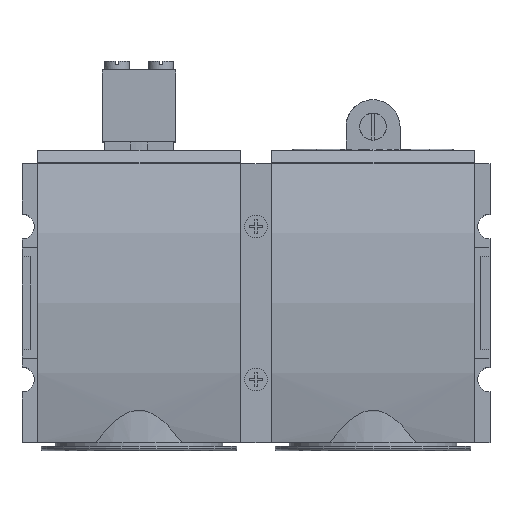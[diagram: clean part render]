
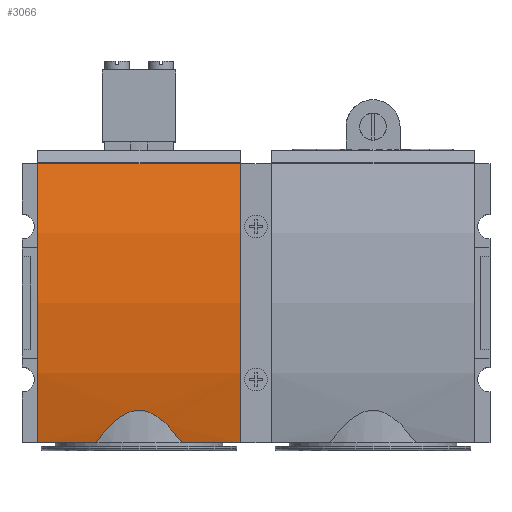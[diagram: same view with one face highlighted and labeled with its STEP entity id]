
A CAD part, top view. The second image highlights one B-rep face of the part: STEP entity #3066.
In plain terms, the highlighted cylindrical face has radius 115 mm (diameter 230 mm), a partial arc.
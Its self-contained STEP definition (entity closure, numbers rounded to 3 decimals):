
#174=CARTESIAN_POINT('',(22.5,0.,-85.5));
#175=DIRECTION('',(1.,0.,0.));
#176=DIRECTION('',(0.,0.27,0.963));
#177=AXIS2_PLACEMENT_3D('',#174,#175,#176);
#546=CARTESIAN_POINT('',(-22.5,0.,-85.5));
#547=DIRECTION('',(1.,0.,0.));
#548=DIRECTION('',(0.,0.27,0.963));
#549=AXIS2_PLACEMENT_3D('',#546,#547,#548);
#568=DIRECTION('',(1.,0.,0.));
#569=VECTOR('',#568,12.919);
#570=CARTESIAN_POINT('',(-22.5,-31.,25.243));
#571=LINE('',#570,#569);
#577=DIRECTION('',(1.,0.,0.));
#578=VECTOR('',#577,12.919);
#579=CARTESIAN_POINT('',(9.581,-31.,25.243));
#580=LINE('',#579,#578);
#912=CARTESIAN_POINT('',(9.581,-31.,25.243));
#913=CARTESIAN_POINT('',(9.396,-30.749,25.313));
#914=CARTESIAN_POINT('',(9.02,-30.249,25.451));
#915=CARTESIAN_POINT('',(8.431,-29.501,25.653));
#916=CARTESIAN_POINT('',(7.824,-28.77,25.844));
#917=CARTESIAN_POINT('',(7.205,-28.065,26.024));
#918=CARTESIAN_POINT('',(6.575,-27.396,26.19));
#919=CARTESIAN_POINT('',(5.923,-26.754,26.345));
#920=CARTESIAN_POINT('',(5.257,-26.157,26.486));
#921=CARTESIAN_POINT('',(4.633,-25.656,26.602));
#922=CARTESIAN_POINT('',(4.077,-25.258,26.692));
#923=CARTESIAN_POINT('',(3.569,-24.934,26.765));
#924=CARTESIAN_POINT('',(3.089,-24.664,26.824));
#925=CARTESIAN_POINT('',(2.628,-24.44,26.873));
#926=CARTESIAN_POINT('',(2.187,-24.258,26.912));
#927=CARTESIAN_POINT('',(1.765,-24.114,26.943));
#928=CARTESIAN_POINT('',(1.358,-24.005,26.967));
#929=CARTESIAN_POINT('',(0.963,-23.925,26.984));
#930=CARTESIAN_POINT('',(0.576,-23.873,26.995));
#931=CARTESIAN_POINT('',(0.191,-23.847,27.));
#932=CARTESIAN_POINT('',(-0.191,-23.847,
27.));
#933=CARTESIAN_POINT('',(-0.576,-23.873,
26.995));
#934=CARTESIAN_POINT('',(-0.963,-23.925,
26.984));
#935=CARTESIAN_POINT('',(-1.358,-24.005,26.967));
#936=CARTESIAN_POINT('',(-1.765,-24.114,26.943));
#937=CARTESIAN_POINT('',(-2.187,-24.258,26.912));
#938=CARTESIAN_POINT('',(-2.628,-24.44,26.873));
#939=CARTESIAN_POINT('',(-3.089,-24.664,26.824));
#940=CARTESIAN_POINT('',(-3.569,-24.934,26.765));
#941=CARTESIAN_POINT('',(-4.077,-25.258,26.692));
#942=CARTESIAN_POINT('',(-4.633,-25.657,26.602));
#943=CARTESIAN_POINT('',(-5.257,-26.158,26.486));
#944=CARTESIAN_POINT('',(-5.923,-26.754,26.345));
#945=CARTESIAN_POINT('',(-6.575,-27.395,26.19));
#946=CARTESIAN_POINT('',(-7.205,-28.065,26.024));
#947=CARTESIAN_POINT('',(-7.825,-28.77,25.844));
#948=CARTESIAN_POINT('',(-8.431,-29.501,25.652));
#949=CARTESIAN_POINT('',(-9.02,-30.249,25.451));
#950=CARTESIAN_POINT('',(-9.396,-30.749,25.313));
#951=CARTESIAN_POINT('',(-9.581,-31.,25.243));
#953=DIRECTION('',(1.,0.,0.));
#954=VECTOR('',#953,45.);
#955=CARTESIAN_POINT('',(-22.5,31.,25.243));
#956=LINE('',#955,#954);
#1647=CARTESIAN_POINT('',(-22.5,31.,25.243));
#1648=CARTESIAN_POINT('',(-22.5,-31.,25.243));
#1649=VERTEX_POINT('',#1647);
#1650=VERTEX_POINT('',#1648);
#1655=CARTESIAN_POINT('',(22.5,31.,25.243));
#1656=CARTESIAN_POINT('',(22.5,-31.,25.243));
#1657=VERTEX_POINT('',#1655);
#1658=VERTEX_POINT('',#1656);
#1775=VERTEX_POINT('',#912);
#1776=VERTEX_POINT('',#951);
#3052=CARTESIAN_POINT('',(-22.5,0.,-85.5));
#3053=DIRECTION('',(1.,0.,0.));
#3054=DIRECTION('',(0.,0.,-1.));
#3055=AXIS2_PLACEMENT_3D('',#3052,#3053,#3054);
#3056=CYLINDRICAL_SURFACE('',#3055,115.);
#3058=ORIENTED_EDGE('',*,*,#3057,.T.);
#3059=ORIENTED_EDGE('',*,*,#2712,.F.);
#3060=ORIENTED_EDGE('',*,*,#2664,.F.);
#3061=ORIENTED_EDGE('',*,*,#2776,.T.);
#3062=ORIENTED_EDGE('',*,*,#2246,.T.);
#3063=ORIENTED_EDGE('',*,*,#2716,.F.);
#3064=EDGE_LOOP('',(#3058,#3059,#3060,#3061,#3062,#3063));
#3065=FACE_OUTER_BOUND('',#3064,.F.);
#3066=ADVANCED_FACE('',(#3065),#3056,.T.);
#178=CIRCLE('',#177,115.);
#550=CIRCLE('',#549,115.);
#952=B_SPLINE_CURVE_WITH_KNOTS('',3,(#912,#913,#914,#915,#916,#917,#918,#919,
#920,#921,#922,#923,#924,#925,#926,#927,#928,#929,#930,#931,#932,#933,#934,#935,
#936,#937,#938,#939,#940,#941,#942,#943,#944,#945,#946,#947,#948,#949,#950,
#951),.UNSPECIFIED.,.F.,.F.,(4,1,1,1,1,1,1,1,1,1,1,1,1,1,1,1,1,1,1,1,1,1,1,1,1,
1,1,1,1,1,1,1,1,1,1,1,1,4),(0.,0.027,0.054,
0.081,0.108,0.135,0.162,
0.189,0.216,0.243,0.27,
0.297,0.324,0.351,0.378,
0.405,0.432,0.459,0.486,
0.514,0.541,0.568,0.595,
0.622,0.649,0.676,0.703,
0.73,0.757,0.784,0.811,
0.838,0.865,0.892,0.919,
0.946,0.973,1.),.UNSPECIFIED.);
#2246=EDGE_CURVE('',#1657,#1658,#178,.T.);
#2664=EDGE_CURVE('',#1649,#1650,#550,.T.);
#2712=EDGE_CURVE('',#1650,#1776,#571,.T.);
#2716=EDGE_CURVE('',#1775,#1658,#580,.T.);
#2776=EDGE_CURVE('',#1649,#1657,#956,.T.);
#3057=EDGE_CURVE('',#1775,#1776,#952,.T.);
